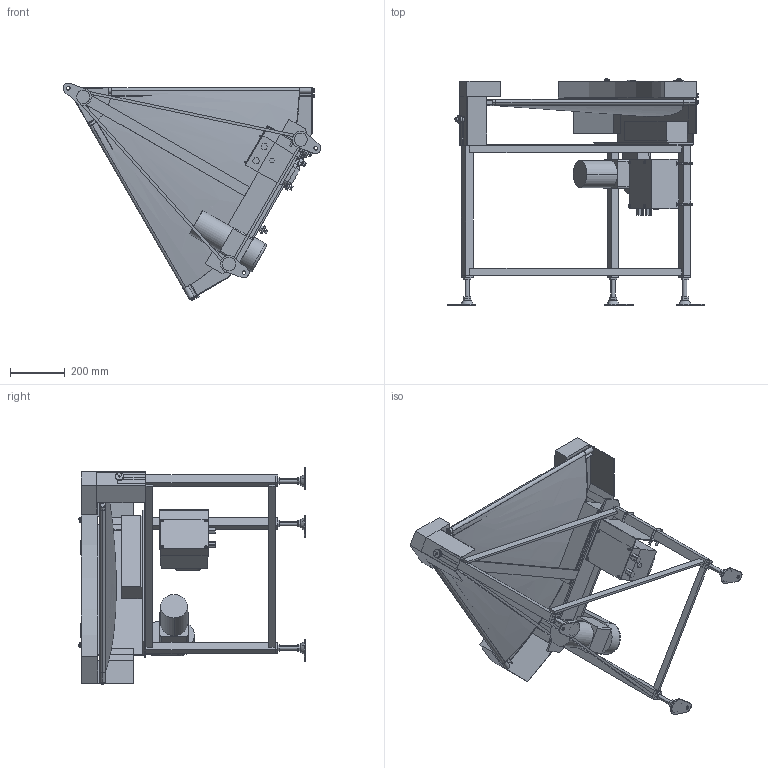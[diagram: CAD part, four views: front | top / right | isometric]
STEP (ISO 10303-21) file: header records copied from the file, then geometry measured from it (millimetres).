
FILE_DESCRIPTION (( 'STEP AP214' ), '1' );
FILE_NAME ('GFBC60-UD600-L.STEP', '2024-01-18T02:28:44', ( '' ), ( '' ), 'SwSTEP 2.0', 'SolidWorks 2017', '' );
FILE_SCHEMA (( 'AUTOMOTIVE_DESIGN' ));
Length unit declared in the file: millimetre
Products named in the file (1): GFBC60-UD600-L
Bounding box: 942.61 x 827.92 x 796.18 mm (x, y, z)
Volume: 22062438.8 mm3; surface area: 4452123.4 mm2
Topology: 54 solids, 55 shells, 1110 faces, 2587 edges, 1664 vertices
Faces by surface type: plane 697, cylinder 316, cone 45, bspline 40, torus 8, sphere 4
Entity records: 39433 total; most frequent: CARTESIAN_POINT 13390, DIRECTION 5226, ORIENTED_EDGE 5142, EDGE_CURVE 2571, AXIS2_PLACEMENT_3D 1785, VERTEX_POINT 1664, LINE 1656, VECTOR 1656
